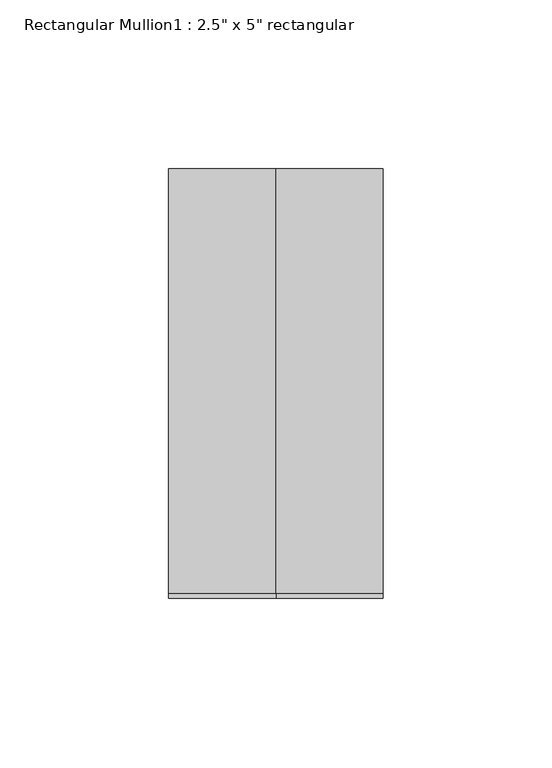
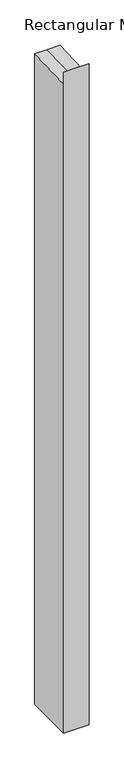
"""IFC4 building model written with IfcOpenShell, lengths in millimetres: member geometry."""

from ifc_helpers import new_model, si_unit, origin, place, context, project, spatial, faceted_brep, source, transform, mapped, element, save


def member_780b0c29(model_context):
    return source(origin(), model_context, "Body", "Brep", [
        faceted_brep([(31.75, 63.5, -1733.5500228), (31.75, -63.5, -1733.5500228), (-31.75, -63.5, -1733.5500228), (-31.75, 63.5, -1733.5500228), (-31.75, 63.5, 2.5257955), (0.0, 63.5, 2.5257955), (31.75, 63.5, 2.5257955), (-31.75, -63.5, 30.4748075), (-31.75, -62.1741259, -2.5237591), (31.75, -63.5, 30.4748075), (0.0, -63.5, 30.4748075), (31.75, -62.1741259, -2.5237591), (0.0, -62.1741259, -2.5237591)], [[[0, 1, 2, 3]], [[4, 5, 6, 0, 3]], [[7, 8, 4, 3, 2]], [[9, 10, 7, 2, 1]], [[6, 11, 9, 1, 0]], [[6, 5, 12, 11]], [[5, 4, 8, 12]], [[8, 7, 10, 12]], [[10, 9, 11, 12]]]),
    ])


if __name__ == "__main__":
    model = new_model("IFC4")
    model_context = context("Model", 3, world=origin())
    ifc_project = project(units=[si_unit("LENGTHUNIT", "METRE", prefix="MILLI")], contexts=[model_context])
    site = spatial("IfcSite", under=ifc_project)
    building = spatial("IfcBuilding", under=site)
    placement = place(None, origin())
    member_shape = member_780b0c29(model_context)
    element("IfcMember", 1, ObjectType="Rectangular Mullion1 : 2.5\" x 5\" rectangular", at=placement, inside=building, context=model_context, shape_type="MappedRepresentation", body=[
        mapped(member_shape, transform((0.0, 0.0, 0.0), x_axis=(1.0, 0.0, 0.0), y_axis=(0.0, 1.0, 0.0), z_axis=(0.0, 0.0, 1.0))),
    ])
    save(model, "model.ifc")
